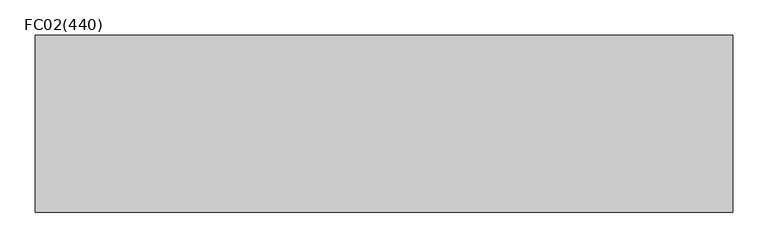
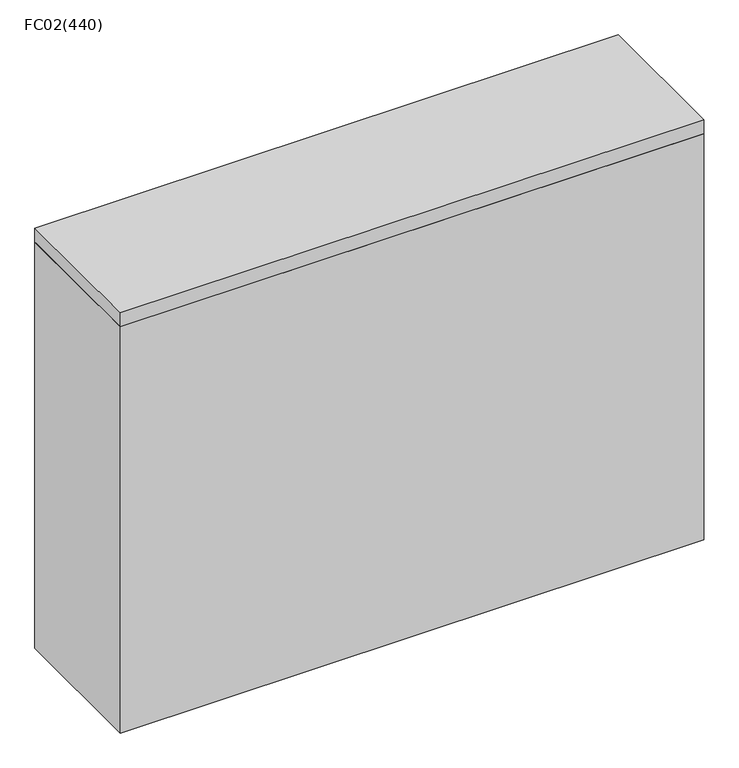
"""IFC4 building model written with IfcOpenShell, lengths in millimetres: proxy geometry, ZYR_03.04.03 Fancoil terra : FC02(440)."""

from ifc_helpers import new_model, si_unit, frame, origin, origin_with_axes, place, context, project, spatial, polyline, outline, extrude, source, transform, mapped, element, save


def fc02_440_f0a85bc8(model_context):
    return source(origin(), model_context, "Body", "SweptSolid", [
        extrude(outline(polyline([(492.5, 125.0), (492.5, -125.0), (-492.5, -125.0), (-492.5, 125.0), (492.5, 125.0)])), origin_with_axes(), (0.0, 0.0, 1.0), 725.0),
        extrude(outline(polyline([(492.5, 125.0), (492.5, -125.0), (-492.5, -125.0), (-492.5, 125.0), (492.5, 125.0)])), frame((0.0, 0.0, 725.0), z_axis=(0.0, 0.0, 1.0), x_axis=(1.0, 0.0, 0.0)), (0.0, 0.0, 1.0), 25.0),
    ])


if __name__ == "__main__":
    model = new_model("IFC4")
    model_context = context("Model", 3, world=origin())
    ifc_project = project(units=[si_unit("LENGTHUNIT", "METRE", prefix="MILLI")], contexts=[model_context])
    site = spatial("IfcSite", under=ifc_project)
    building = spatial("IfcBuilding", under=site)
    placement = place(None, origin())
    fc02_440_shape = fc02_440_f0a85bc8(model_context)
    element("IfcBuildingElementProxy", 1, Name="ZYR_03.04.03 Fancoil terra : FC02(440)", ObjectType="ZYR_03.04.03 Fancoil terra : FC02(440)", at=placement, inside=building, context=model_context, shape_type="MappedRepresentation", body=[
        mapped(fc02_440_shape, transform((0.0, 0.0, 0.0), x_axis=(1.0, 0.0, 0.0), y_axis=(0.0, 1.0, 0.0), z_axis=(0.0, 0.0, 1.0))),
    ])
    save(model, "model.ifc")
